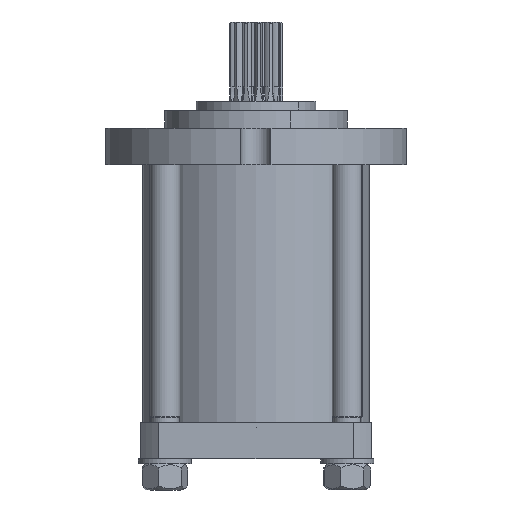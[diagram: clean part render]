
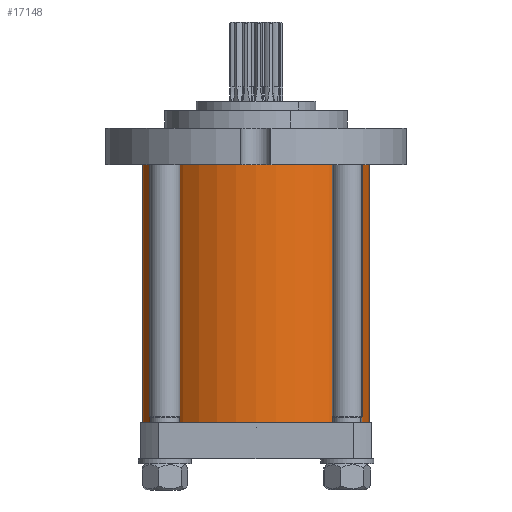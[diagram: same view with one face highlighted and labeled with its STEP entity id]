
A CAD part, front view. The second image highlights one B-rep face of the part: STEP entity #17148.
In plain terms, the highlighted cylindrical face has radius 94.5 mm (diameter 189 mm), a partial arc.
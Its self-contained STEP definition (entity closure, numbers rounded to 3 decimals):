
#330 = CARTESIAN_POINT ( 'NONE',  ( -94.5, 0., 245. ) ) ;
#1004 = VECTOR ( 'NONE', #20855, 1000. ) ;
#2679 = EDGE_CURVE ( 'NONE', #23236, #2980, #4373, .T. ) ;
#2980 = VERTEX_POINT ( 'NONE', #15179 ) ;
#3122 = VERTEX_POINT ( 'NONE', #17405 ) ;
#3315 = DIRECTION ( 'NONE',  ( 0., 0., -1. ) ) ;
#4373 = LINE ( 'NONE', #10031, #1004 ) ;
#4402 = EDGE_CURVE ( 'NONE', #16317, #23236, #16922, .T. ) ;
#5289 = DIRECTION ( 'NONE',  ( 0., 0., 1. ) ) ;
#6525 = EDGE_LOOP ( 'NONE', ( #22248, #8799, #21680, #6970 ) ) ;
#6970 = ORIENTED_EDGE ( 'NONE', *, *, #12536, .T. ) ;
#8799 = ORIENTED_EDGE ( 'NONE', *, *, #4402, .F. ) ;
#8923 = CARTESIAN_POINT ( 'NONE',  ( -94.5, 0., 245. ) ) ;
#9976 = CARTESIAN_POINT ( 'NONE',  ( 0., 0., 245. ) ) ;
#10031 = CARTESIAN_POINT ( 'NONE',  ( 94.5, 0., 245. ) ) ;
#11136 = AXIS2_PLACEMENT_3D ( 'NONE', #20964, #5289, #12111 ) ;
#12111 = DIRECTION ( 'NONE',  ( 1., 0., 0. ) ) ;
#12337 = LINE ( 'NONE', #8923, #21069 ) ;
#12353 = AXIS2_PLACEMENT_3D ( 'NONE', #23235, #3315, #17681 ) ;
#12536 = EDGE_CURVE ( 'NONE', #3122, #2980, #17537, .T. ) ;
#15179 = CARTESIAN_POINT ( 'NONE',  ( 94.5, 0., 30. ) ) ;
#15806 = CYLINDRICAL_SURFACE ( 'NONE', #12353, 94.5 ) ;
#15953 = CARTESIAN_POINT ( 'NONE',  ( 94.5, 0., 245. ) ) ;
#16317 = VERTEX_POINT ( 'NONE', #330 ) ;
#16911 = DIRECTION ( 'NONE',  ( 0., 0., 1. ) ) ;
#16922 = CIRCLE ( 'NONE', #18809, 94.5 ) ;
#17148 = ADVANCED_FACE ( 'NONE', ( #19443 ), #15806, .T. ) ;
#17405 = CARTESIAN_POINT ( 'NONE',  ( -94.5, 0., 30. ) ) ;
#17537 = CIRCLE ( 'NONE', #11136, 94.5 ) ;
#17681 = DIRECTION ( 'NONE',  ( -1., 0., 0. ) ) ;
#18808 = EDGE_CURVE ( 'NONE', #16317, #3122, #12337, .T. ) ;
#18809 = AXIS2_PLACEMENT_3D ( 'NONE', #9976, #16911, #22476 ) ;
#19443 = FACE_OUTER_BOUND ( 'NONE', #6525, .T. ) ;
#20855 = DIRECTION ( 'NONE',  ( 0., 0., -1. ) ) ;
#20964 = CARTESIAN_POINT ( 'NONE',  ( 0., 0., 30. ) ) ;
#21069 = VECTOR ( 'NONE', #23315, 1000. ) ;
#21680 = ORIENTED_EDGE ( 'NONE', *, *, #18808, .T. ) ;
#22248 = ORIENTED_EDGE ( 'NONE', *, *, #2679, .F. ) ;
#22476 = DIRECTION ( 'NONE',  ( 1., 0., 0. ) ) ;
#23235 = CARTESIAN_POINT ( 'NONE',  ( 0., 0., 245. ) ) ;
#23236 = VERTEX_POINT ( 'NONE', #15953 ) ;
#23315 = DIRECTION ( 'NONE',  ( 0., 0., -1. ) ) ;
